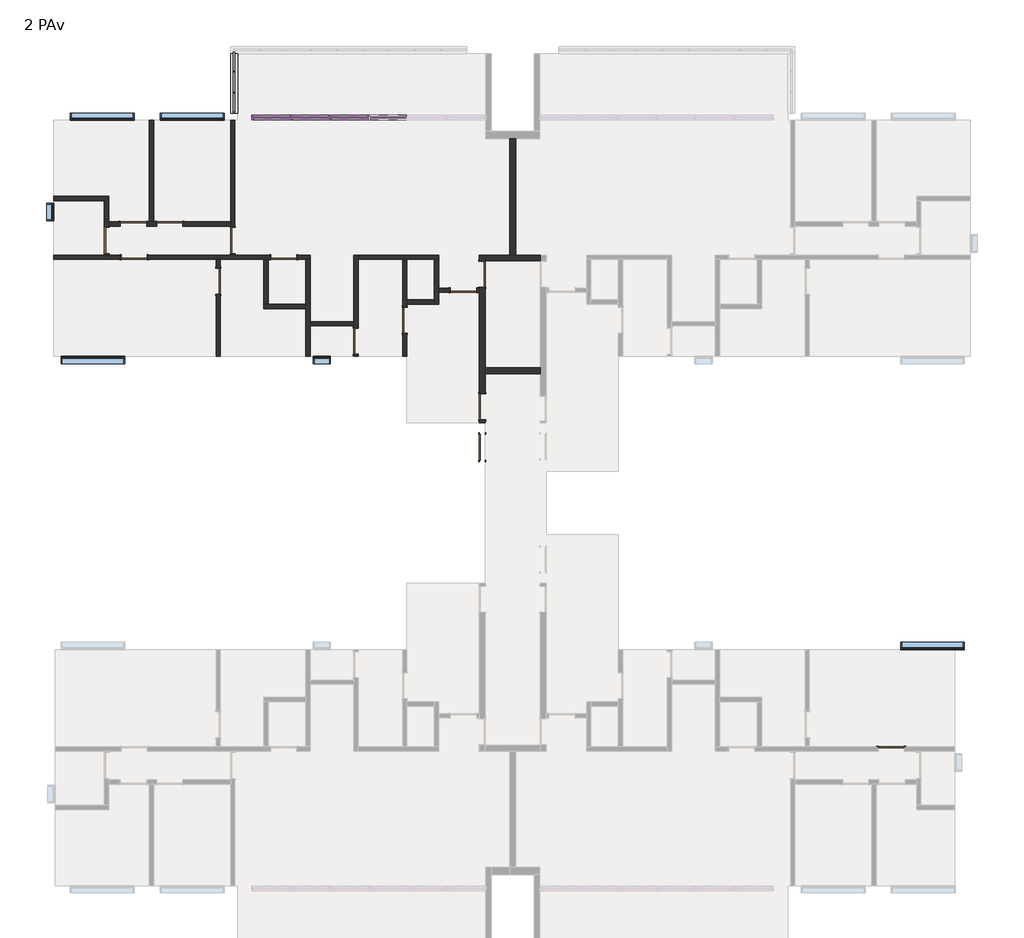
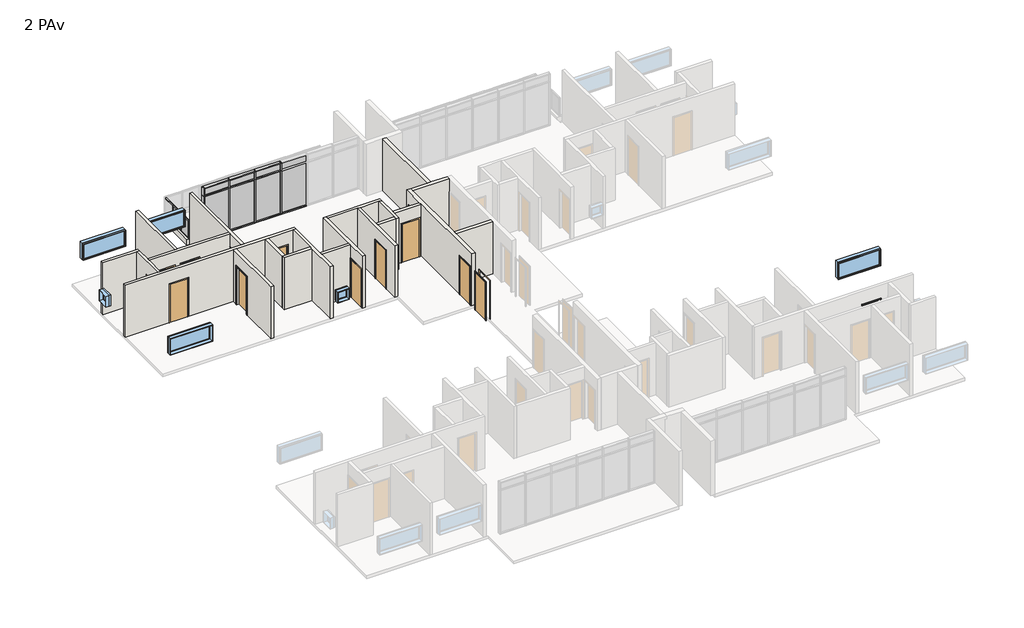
# One storey, part 4 of 6: 26 members, 22 walls, 14 doors, 10 plates, 6 windows.
"""IFC4 building model written with IfcOpenShell, lengths in millimetres."""

from ifc_helpers import new_model, si_unit, frame, origin, place, context, project, spatial, polyline, outline, extrude, faceted_brep, transform, mapped, element, save
from components import door_90_x_210_ee935524, door_90_x_210_565370b3, door_90_x_210_2c83007d, door_90_x_210_fbafd55c, montante_retangular_50_mm_quadrado_84e40a56, montante_retangular_50_mm_quadrado_3d152aff, montante_retangular_50_mm_quadrado_a01005a4, montante_retangular_50_mm_quadrado_ddd80bd7, montante_retangular_50_x_150_mm_6217edde, montante_retangular_50_x_150_mm_a22249d7, montante_retangular_50_x_150_mm_6225e4e3, montante_retangular_50_x_150_mm_0a8c3443, montante_retangular_50_x_150_mm_567eccab, montante_retangular_50_x_150_mm_1ca2bba2, montante_retangular_50_x_150_mm_6abf4531, montante_retangular_50_x_150_mm_662c37b1, painel_do_sistema_0196877a, painel_do_sistema_2aa81470, painel_do_sistema_1ecb5f42, painel_do_sistema_49db1829, painel_do_sistema_5ea5287b, painel_do_sistema_7730abee, window_0610_x_0610_mm_b5667cc9, window_220_x_90_84e01c73

model = new_model("IFC4")

# Units and contexts
model_context = context("Model", 3, world=origin())
ifc_project = project(units=[si_unit("LENGTHUNIT", "METRE", prefix="MILLI")], contexts=[model_context])

# Site, building, storey
site = spatial("IfcSite", under=ifc_project)
building = spatial("IfcBuilding", under=site)
storey = spatial("IfcBuildingStorey", under=building, Name="2 PAv", Elevation=6000.0)

# Doors
placement = place(None, origin())
door_90_x_210_shape = door_90_x_210_ee935524(model_context)
element("IfcDoor", 1, ObjectType="M_Descarga simples : 90 x 210", at=placement, inside=storey, context=model_context, shape_type="MappedRepresentation", body=[
    mapped(door_90_x_210_shape, transform((12043.7734258, -7711.3385375, 6000.0), x_axis=(1.0, 0.0, 0.0), y_axis=(0.0, 1.0, 0.0), z_axis=(0.0, 0.0, 1.0))),
])
element("IfcDoor", 2, ObjectType="M_Descarga simples : 90 x 210", at=placement, inside=storey, context=model_context, shape_type="MappedRepresentation", body=[
    mapped(door_90_x_210_shape, transform((-14116.2265742, 10408.6614625, 6000.0), x_axis=(1.0, 0.0, 0.0), y_axis=(0.0, 1.0, 0.0), z_axis=(0.0, 0.0, 1.0))),
])
element("IfcDoor", 3, ObjectType="M_Descarga simples : 90 x 210", at=placement, inside=storey, context=model_context, shape_type="MappedRepresentation", body=[
    mapped(door_90_x_210_shape, transform((-14096.2265742, 9258.6614625, 6000.0), x_axis=(-1.0, 0.0, 0.0), y_axis=(0.0, -1.0, 0.0), z_axis=(0.0, 0.0, 1.0))),
])
element("IfcDoor", 4, ObjectType="M_Descarga simples : 90 x 210", at=placement, inside=storey, context=model_context, shape_type="MappedRepresentation", body=[
    mapped(door_90_x_210_shape, transform((-8936.2265742, 9258.6614625, 6000.0), x_axis=(-1.0, 0.0, 0.0), y_axis=(0.0, -1.0, 0.0), z_axis=(0.0, 0.0, 1.0))),
])
door_90_x_210_2_shape = door_90_x_210_565370b3(model_context)
element("IfcDoor", 5, ObjectType="M_Descarga simples : 90 x 210", at=placement, inside=storey, context=model_context, shape_type="MappedRepresentation", body=[
    mapped(door_90_x_210_2_shape, transform((-2726.2265742, 8118.6614625, 6000.0), x_axis=(1.0, 0.0, 0.0), y_axis=(0.0, 1.0, 0.0), z_axis=(0.0, 0.0, 1.0))),
])
element("IfcDoor", 6, ObjectType="M_Descarga simples : 90 x 210", at=placement, inside=storey, context=model_context, shape_type="MappedRepresentation", body=[
    mapped(door_90_x_210_2_shape, transform((-4751.2265742, 7083.6614625, 6000.0), x_axis=(0.0, -1.0, 0.0), y_axis=(1.0, 0.0, 0.0), z_axis=(0.0, 0.0, 1.0))),
])
element("IfcDoor", 7, ObjectType="M_Descarga simples : 90 x 210", at=placement, inside=storey, context=model_context, shape_type="MappedRepresentation", body=[
    mapped(door_90_x_210_2_shape, transform((-6441.2265742, 6358.6614625, 6000.0), x_axis=(0.0, -1.0, 0.0), y_axis=(1.0, 0.0, 0.0), z_axis=(0.0, 0.0, 1.0))),
])
element("IfcDoor", 8, ObjectType="M_Descarga simples : 90 x 210", at=placement, inside=storey, context=model_context, shape_type="MappedRepresentation", body=[
    mapped(door_90_x_210_2_shape, transform((-11191.2265742, 8433.6614625, 6000.0), x_axis=(0.0, 1.0, 0.0), y_axis=(-1.0, 0.0, 0.0), z_axis=(0.0, 0.0, 1.0))),
])
element("IfcDoor", 9, ObjectType="M_Descarga simples : 90 x 210", at=placement, inside=storey, context=model_context, shape_type="MappedRepresentation", body=[
    mapped(door_90_x_210_2_shape, transform((-10691.2265742, 9833.6614625, 6000.0), x_axis=(0.0, -1.0, 0.0), y_axis=(1.0, 0.0, 0.0), z_axis=(0.0, 0.0, 1.0))),
])
element("IfcDoor", 10, ObjectType="M_Descarga simples : 90 x 210", at=placement, inside=storey, context=model_context, shape_type="MappedRepresentation", body=[
    mapped(door_90_x_210_2_shape, transform((-15041.2265742, 9833.6614625, 6000.0), x_axis=(0.0, -1.0, 0.0), y_axis=(1.0, 0.0, 0.0), z_axis=(0.0, 0.0, 1.0))),
])
element("IfcDoor", 11, ObjectType="M_Descarga simples : 90 x 210", at=placement, inside=storey, context=model_context, shape_type="MappedRepresentation", body=[
    mapped(door_90_x_210_2_shape, transform((-12866.2265742, 10408.6614625, 6000.0), x_axis=(-1.0, 0.0, 0.0), y_axis=(0.0, -1.0, 0.0), z_axis=(0.0, 0.0, 1.0))),
])
door_90_x_210_3_shape = door_90_x_210_2c83007d(model_context)
element("IfcDoor", 12, ObjectType="M_Descarga simples : 90 x 210", at=placement, inside=storey, context=model_context, shape_type="MappedRepresentation", body=[
    mapped(door_90_x_210_3_shape, transform((-2076.2265742, 2693.6614625, 6000.0), x_axis=(0.0, 1.0, 0.0), y_axis=(-1.0, 0.0, 0.0), z_axis=(0.0, 0.0, 1.0))),
])
door_90_x_210_4_shape = door_90_x_210_fbafd55c(model_context)
element("IfcDoor", 13, ObjectType="M_Descarga simples : 90 x 210", at=placement, inside=storey, context=model_context, shape_type="MappedRepresentation", body=[
    mapped(door_90_x_210_4_shape, transform((-2076.2265742, 4093.6614625, 6000.0), x_axis=(0.0, -1.0, 0.0), y_axis=(1.0, 0.0, 0.0), z_axis=(0.0, 0.0, 1.0))),
])
element("IfcDoor", 14, ObjectType="M_Descarga simples : 90 x 210", at=placement, inside=storey, context=model_context, shape_type="MappedRepresentation", body=[
    mapped(door_90_x_210_4_shape, transform((-2076.2265742, 8673.2521762, 6000.0), x_axis=(0.0, 1.0, 0.0), y_axis=(-1.0, 0.0, 0.0), z_axis=(0.0, 0.0, 1.0))),
])

# Members
montante_retangular_50_mm_quadrado_shape = montante_retangular_50_mm_quadrado_84e40a56(model_context)
element("IfcMember", 15, ObjectType="Montante retangular : 50 mm Quadrado", at=placement, inside=storey, context=model_context, shape_type="MappedRepresentation", body=[
    mapped(montante_retangular_50_mm_quadrado_shape, transform((-10641.2265742, 15663.6614625, 6150.0), x_axis=(0.0, -1.0, 0.0), y_axis=(-1.0, 0.0, 0.0), z_axis=(0.0, 0.0, -1.0))),
])
element("IfcMember", 16, ObjectType="Montante retangular : 50 mm Quadrado", at=placement, inside=storey, context=model_context, shape_type="MappedRepresentation", body=[
    mapped(montante_retangular_50_mm_quadrado_shape, transform((-10641.2265742, 14948.6614625, 6150.0), x_axis=(0.0, -1.0, 0.0), y_axis=(-1.0, 0.0, 0.0), z_axis=(0.0, 0.0, -1.0))),
])
montante_retangular_50_mm_quadrado_2_shape = montante_retangular_50_mm_quadrado_3d152aff(model_context)
element("IfcMember", 17, ObjectType="Montante retangular : 50 mm Quadrado", at=placement, inside=storey, context=model_context, shape_type="MappedRepresentation", body=[
    mapped(montante_retangular_50_mm_quadrado_2_shape, transform((-10641.2265742, 14233.6614625, 6150.0), x_axis=(0.0, -1.0, 0.0), y_axis=(-1.0, 0.0, 0.0), z_axis=(0.0, 0.0, -1.0))),
])
montante_retangular_50_mm_quadrado_3_shape = montante_retangular_50_mm_quadrado_a01005a4(model_context)
element("IfcMember", 18, ObjectType="Montante retangular : 50 mm Quadrado", at=placement, inside=storey, context=model_context, shape_type="MappedRepresentation", body=[
    mapped(montante_retangular_50_mm_quadrado_3_shape, transform((-10641.2265742, 14283.6614625, 7150.0), x_axis=(0.0, 0.0, 1.0), y_axis=(-1.0, 0.0, 0.0), z_axis=(0.0, -1.0, 0.0))),
])
element("IfcMember", 19, ObjectType="Montante retangular : 50 mm Quadrado", at=placement, inside=storey, context=model_context, shape_type="MappedRepresentation", body=[
    mapped(montante_retangular_50_mm_quadrado_3_shape, transform((-10641.2265742, 15688.6614625, 7150.0), x_axis=(0.0, 0.0, 1.0), y_axis=(-1.0, 0.0, 0.0), z_axis=(0.0, -1.0, 0.0))),
])
montante_retangular_50_mm_quadrado_4_shape = montante_retangular_50_mm_quadrado_ddd80bd7(model_context)
element("IfcMember", 20, ObjectType="Montante retangular : 50 mm Quadrado", at=placement, inside=storey, context=model_context, shape_type="MappedRepresentation", body=[
    mapped(montante_retangular_50_mm_quadrado_4_shape, transform((-10641.2265742, 14973.6614625, 7150.0), x_axis=(0.0, 0.0, 1.0), y_axis=(-1.0, 0.0, 0.0), z_axis=(0.0, -1.0, 0.0))),
])
element("IfcMember", 21, ObjectType="Montante retangular : 50 mm Quadrado", at=placement, inside=storey, context=model_context, shape_type="MappedRepresentation", body=[
    mapped(montante_retangular_50_mm_quadrado_3_shape, transform((-10641.2265742, 14923.6614625, 6150.0), x_axis=(0.0, 0.0, -1.0), y_axis=(-1.0, 0.0, 0.0), z_axis=(0.0, 1.0, 0.0))),
])
element("IfcMember", 22, ObjectType="Montante retangular : 50 mm Quadrado", at=placement, inside=storey, context=model_context, shape_type="MappedRepresentation", body=[
    mapped(montante_retangular_50_mm_quadrado_4_shape, transform((-10641.2265742, 15638.6614625, 6150.0), x_axis=(0.0, 0.0, -1.0), y_axis=(-1.0, 0.0, 0.0), z_axis=(0.0, 1.0, 0.0))),
])
montante_retangular_50_x_150_mm_shape = montante_retangular_50_x_150_mm_6217edde(model_context)
element("IfcMember", 23, ObjectType="Montante retangular : 50 x 150 mm", at=placement, inside=storey, context=model_context, shape_type="MappedRepresentation", body=[
    mapped(montante_retangular_50_x_150_mm_shape, transform((-8707.0599075, 14083.6614625, 8850.0), x_axis=(0.0, 0.0, 1.0), y_axis=(0.0, -1.0, 0.0), z_axis=(1.0, 0.0, 0.0))),
])
montante_retangular_50_x_150_mm_2_shape = montante_retangular_50_x_150_mm_a22249d7(model_context)
element("IfcMember", 24, ObjectType="Montante retangular : 50 x 150 mm", at=placement, inside=storey, context=model_context, shape_type="MappedRepresentation", body=[
    mapped(montante_retangular_50_x_150_mm_2_shape, transform((-7362.8932408, 14083.6614625, 8850.0), x_axis=(0.0, 0.0, 1.0), y_axis=(0.0, -1.0, 0.0), z_axis=(1.0, 0.0, 0.0))),
])
element("IfcMember", 25, ObjectType="Montante retangular : 50 x 150 mm", at=placement, inside=storey, context=model_context, shape_type="MappedRepresentation", body=[
    mapped(montante_retangular_50_x_150_mm_2_shape, transform((-6018.7265742, 14083.6614625, 8850.0), x_axis=(0.0, 0.0, 1.0), y_axis=(0.0, -1.0, 0.0), z_axis=(1.0, 0.0, 0.0))),
])
element("IfcMember", 26, ObjectType="Montante retangular : 50 x 150 mm", at=placement, inside=storey, context=model_context, shape_type="MappedRepresentation", body=[
    mapped(montante_retangular_50_x_150_mm_shape, transform((-9976.2265742, 14083.6614625, 6000.0), x_axis=(0.0, 0.0, -1.0), y_axis=(0.0, -1.0, 0.0), z_axis=(-1.0, 0.0, 0.0))),
])
element("IfcMember", 27, ObjectType="Montante retangular : 50 x 150 mm", at=placement, inside=storey, context=model_context, shape_type="MappedRepresentation", body=[
    mapped(montante_retangular_50_x_150_mm_2_shape, transform((-8657.0599075, 14083.6614625, 6000.0), x_axis=(0.0, 0.0, -1.0), y_axis=(0.0, -1.0, 0.0), z_axis=(-1.0, 0.0, 0.0))),
])
element("IfcMember", 28, ObjectType="Montante retangular : 50 x 150 mm", at=placement, inside=storey, context=model_context, shape_type="MappedRepresentation", body=[
    mapped(montante_retangular_50_x_150_mm_2_shape, transform((-7312.8932408, 14083.6614625, 6000.0), x_axis=(0.0, 0.0, -1.0), y_axis=(0.0, -1.0, 0.0), z_axis=(-1.0, 0.0, 0.0))),
])
element("IfcMember", 29, ObjectType="Montante retangular : 50 x 150 mm", at=placement, inside=storey, context=model_context, shape_type="MappedRepresentation", body=[
    mapped(montante_retangular_50_x_150_mm_2_shape, transform((-5968.7265742, 14083.6614625, 6000.0), x_axis=(0.0, 0.0, -1.0), y_axis=(0.0, -1.0, 0.0), z_axis=(-1.0, 0.0, 0.0))),
])
montante_retangular_50_x_150_mm_3_shape = montante_retangular_50_x_150_mm_6225e4e3(model_context)
element("IfcMember", 30, ObjectType="Montante retangular : 50 x 150 mm", at=placement, inside=storey, context=model_context, shape_type="MappedRepresentation", body=[
    mapped(montante_retangular_50_x_150_mm_3_shape, transform((-8682.0599075, 14083.6614625, 6000.0), x_axis=(1.0, 0.0, 0.0), y_axis=(0.0, -1.0, 0.0), z_axis=(0.0, 0.0, -1.0))),
])
element("IfcMember", 31, ObjectType="Montante retangular : 50 x 150 mm", at=placement, inside=storey, context=model_context, shape_type="MappedRepresentation", body=[
    mapped(montante_retangular_50_x_150_mm_3_shape, transform((-7337.8932408, 14083.6614625, 6000.0), x_axis=(1.0, 0.0, 0.0), y_axis=(0.0, -1.0, 0.0), z_axis=(0.0, 0.0, -1.0))),
])
element("IfcMember", 32, ObjectType="Montante retangular : 50 x 150 mm", at=placement, inside=storey, context=model_context, shape_type="MappedRepresentation", body=[
    mapped(montante_retangular_50_x_150_mm_3_shape, transform((-5993.7265742, 14083.6614625, 6000.0), x_axis=(1.0, 0.0, 0.0), y_axis=(0.0, -1.0, 0.0), z_axis=(0.0, 0.0, -1.0))),
])
montante_retangular_50_x_150_mm_4_shape = montante_retangular_50_x_150_mm_0a8c3443(model_context)
element("IfcMember", 33, ObjectType="Montante retangular : 50 x 150 mm", at=placement, inside=storey, context=model_context, shape_type="MappedRepresentation", body=[
    mapped(montante_retangular_50_x_150_mm_4_shape, transform((-10026.2265742, 14083.6614625, 8850.0), x_axis=(-1.0, 0.0, 0.0), y_axis=(0.0, -1.0, 0.0), z_axis=(0.0, 0.0, 1.0))),
])
montante_retangular_50_x_150_mm_5_shape = montante_retangular_50_x_150_mm_567eccab(model_context)
element("IfcMember", 34, ObjectType="Montante retangular : 50 x 150 mm", at=placement, inside=storey, context=model_context, shape_type="MappedRepresentation", body=[
    mapped(montante_retangular_50_x_150_mm_5_shape, transform((-8682.0599075, 14083.6614625, 8400.0), x_axis=(1.0, 0.0, 0.0), y_axis=(0.0, -1.0, 0.0), z_axis=(0.0, 0.0, -1.0))),
])
element("IfcMember", 35, ObjectType="Montante retangular : 50 x 150 mm", at=placement, inside=storey, context=model_context, shape_type="MappedRepresentation", body=[
    mapped(montante_retangular_50_x_150_mm_5_shape, transform((-7337.8932408, 14083.6614625, 8400.0), x_axis=(1.0, 0.0, 0.0), y_axis=(0.0, -1.0, 0.0), z_axis=(0.0, 0.0, -1.0))),
])
element("IfcMember", 36, ObjectType="Montante retangular : 50 x 150 mm", at=placement, inside=storey, context=model_context, shape_type="MappedRepresentation", body=[
    mapped(montante_retangular_50_x_150_mm_5_shape, transform((-5993.7265742, 14083.6614625, 8400.0), x_axis=(1.0, 0.0, 0.0), y_axis=(0.0, -1.0, 0.0), z_axis=(0.0, 0.0, -1.0))),
])
montante_retangular_50_x_150_mm_6_shape = montante_retangular_50_x_150_mm_1ca2bba2(model_context)
element("IfcMember", 37, ObjectType="Montante retangular : 50 x 150 mm", at=placement, inside=storey, context=model_context, shape_type="MappedRepresentation", body=[
    mapped(montante_retangular_50_x_150_mm_6_shape, transform((-8707.0599075, 14083.6614625, 8400.0), x_axis=(0.0, 0.0, 1.0), y_axis=(0.0, -1.0, 0.0), z_axis=(1.0, 0.0, 0.0))),
])
montante_retangular_50_x_150_mm_7_shape = montante_retangular_50_x_150_mm_6abf4531(model_context)
element("IfcMember", 38, ObjectType="Montante retangular : 50 x 150 mm", at=placement, inside=storey, context=model_context, shape_type="MappedRepresentation", body=[
    mapped(montante_retangular_50_x_150_mm_7_shape, transform((-7362.8932408, 14083.6614625, 8400.0), x_axis=(0.0, 0.0, 1.0), y_axis=(0.0, -1.0, 0.0), z_axis=(1.0, 0.0, 0.0))),
])
element("IfcMember", 39, ObjectType="Montante retangular : 50 x 150 mm", at=placement, inside=storey, context=model_context, shape_type="MappedRepresentation", body=[
    mapped(montante_retangular_50_x_150_mm_7_shape, transform((-6018.7265742, 14083.6614625, 8400.0), x_axis=(0.0, 0.0, 1.0), y_axis=(0.0, -1.0, 0.0), z_axis=(1.0, 0.0, 0.0))),
])
montante_retangular_50_x_150_mm_8_shape = montante_retangular_50_x_150_mm_662c37b1(model_context)
element("IfcMember", 40, ObjectType="Montante retangular : 50 x 150 mm", at=placement, inside=storey, context=model_context, shape_type="MappedRepresentation", body=[
    mapped(montante_retangular_50_x_150_mm_8_shape, transform((-10026.2265742, 14083.6614625, 8400.0), x_axis=(-1.0, 0.0, 0.0), y_axis=(0.0, -1.0, 0.0), z_axis=(0.0, 0.0, 1.0))),
])

# Plates
painel_do_sistema_shape = painel_do_sistema_0196877a(model_context)
element("IfcPlate", 41, ObjectType="Painel do sistema : Envidraçado", at=placement, inside=storey, context=model_context, shape_type="MappedRepresentation", body=[
    mapped(painel_do_sistema_shape, transform((-10641.2265742, 14603.6614625, 6200.0), x_axis=(0.0, -1.0, 0.0), y_axis=(1.0, 0.0, 0.0), z_axis=(0.0, 0.0, 1.0))),
])
painel_do_sistema_2_shape = painel_do_sistema_2aa81470(model_context)
element("IfcPlate", 42, ObjectType="Painel do sistema : Envidraçado", at=placement, inside=storey, context=model_context, shape_type="MappedRepresentation", body=[
    mapped(painel_do_sistema_2_shape, transform((-10641.2265742, 15306.1614625, 6200.0), x_axis=(0.0, -1.0, 0.0), y_axis=(1.0, 0.0, 0.0), z_axis=(0.0, 0.0, 1.0))),
])
painel_do_sistema_3_shape = painel_do_sistema_1ecb5f42(model_context)
element("IfcPlate", 43, ObjectType="Painel do sistema : Envidraçado", at=placement, inside=storey, context=model_context, shape_type="MappedRepresentation", body=[
    mapped(painel_do_sistema_3_shape, transform((-9341.6432408, 14083.6614625, 6050.0), x_axis=(1.0, 0.0, 0.0), y_axis=(0.0, 1.0, 0.0), z_axis=(0.0, 0.0, 1.0))),
])
painel_do_sistema_4_shape = painel_do_sistema_49db1829(model_context)
element("IfcPlate", 44, ObjectType="Painel do sistema : Envidraçado", at=placement, inside=storey, context=model_context, shape_type="MappedRepresentation", body=[
    mapped(painel_do_sistema_4_shape, transform((-8009.9765742, 14083.6614625, 6050.0), x_axis=(1.0, 0.0, 0.0), y_axis=(0.0, 1.0, 0.0), z_axis=(0.0, 0.0, 1.0))),
])
element("IfcPlate", 45, ObjectType="Painel do sistema : Envidraçado", at=placement, inside=storey, context=model_context, shape_type="MappedRepresentation", body=[
    mapped(painel_do_sistema_4_shape, transform((-6665.8099075, 14083.6614625, 6050.0), x_axis=(1.0, 0.0, 0.0), y_axis=(0.0, 1.0, 0.0), z_axis=(0.0, 0.0, 1.0))),
])
element("IfcPlate", 46, ObjectType="Painel do sistema : Envidraçado", at=placement, inside=storey, context=model_context, shape_type="MappedRepresentation", body=[
    mapped(painel_do_sistema_4_shape, transform((-5321.6432408, 14083.6614625, 6050.0), x_axis=(1.0, 0.0, 0.0), y_axis=(0.0, 1.0, 0.0), z_axis=(0.0, 0.0, 1.0))),
])
painel_do_sistema_5_shape = painel_do_sistema_5ea5287b(model_context)
element("IfcPlate", 47, ObjectType="Painel do sistema : Envidraçado", at=placement, inside=storey, context=model_context, shape_type="MappedRepresentation", body=[
    mapped(painel_do_sistema_5_shape, transform((-9341.6432408, 14083.6614625, 8425.0), x_axis=(1.0, 0.0, 0.0), y_axis=(0.0, 1.0, 0.0), z_axis=(0.0, 0.0, 1.0))),
])
painel_do_sistema_6_shape = painel_do_sistema_7730abee(model_context)
element("IfcPlate", 48, ObjectType="Painel do sistema : Envidraçado", at=placement, inside=storey, context=model_context, shape_type="MappedRepresentation", body=[
    mapped(painel_do_sistema_6_shape, transform((-8009.9765742, 14083.6614625, 8425.0), x_axis=(1.0, 0.0, 0.0), y_axis=(0.0, 1.0, 0.0), z_axis=(0.0, 0.0, 1.0))),
])
element("IfcPlate", 49, ObjectType="Painel do sistema : Envidraçado", at=placement, inside=storey, context=model_context, shape_type="MappedRepresentation", body=[
    mapped(painel_do_sistema_6_shape, transform((-6665.8099075, 14083.6614625, 8425.0), x_axis=(1.0, 0.0, 0.0), y_axis=(0.0, 1.0, 0.0), z_axis=(0.0, 0.0, 1.0))),
])
element("IfcPlate", 50, ObjectType="Painel do sistema : Envidraçado", at=placement, inside=storey, context=model_context, shape_type="MappedRepresentation", body=[
    mapped(painel_do_sistema_6_shape, transform((-5321.6432408, 14083.6614625, 8425.0), x_axis=(1.0, 0.0, 0.0), y_axis=(0.0, 1.0, 0.0), z_axis=(0.0, 0.0, 1.0))),
])

# Walls
element("IfcWall", 51, ObjectType="Exeterna 25", at=placement, inside=storey, context=model_context, shape_type="SweptSolid", body=[
    extrude(outline(polyline([(-10766.2265742, 14233.6614625), (-10766.2265742, 16278.6614625), (-10516.2265742, 16278.6614625), (-10516.2265742, 14233.6614625), (-10766.2265742, 14233.6614625)])), frame((0.0, 0.0, 5850.0), z_axis=(0.0, 0.0, 1.0), x_axis=(1.0, 0.0, 0.0)), (0.0, 0.0, 1.0), 300.0),
])
element("IfcWall", 52, ObjectType="Estrutura 20", at=placement, inside=storey, context=model_context, shape_type="SweptSolid", body=[
    extrude(outline(polyline([(-76.2265742, 5233.6614625), (-1976.2265742, 5233.6614625), (-1976.2265742, 5433.6614625), (-76.2265742, 5433.6614625), (-76.2265742, 5233.6614625)])), frame((0.0, 0.0, 6000.0), z_axis=(0.0, 0.0, 1.0), x_axis=(1.0, 0.0, 0.0)), (0.0, 0.0, 1.0), 2850.0),
])
element("IfcWall", 53, ObjectType="Interna 15", at=placement, inside=storey, context=model_context, shape_type="Brep", body=[
    faceted_brep([(-10766.2265742, 9383.6614625, 8100.0), (-10766.2265742, 9383.6614625, 6000.0), (-10766.2265742, 9333.6614625, 6000.0), (-10766.2265742, 9333.6614625, 8850.0), (-10766.2265742, 10333.6614625, 8850.0), (-10766.2265742, 10483.6614625, 8850.0), (-10766.2265742, 13983.6614625, 8850.0), (-10766.2265742, 13983.6614625, 6000.0), (-10766.2265742, 10483.6614625, 6000.0), (-10766.2265742, 10333.6614625, 6000.0), (-10766.2265742, 10283.6614625, 6000.0), (-10766.2265742, 10283.6614625, 8100.0), (-10616.2265742, 9333.6614625, 6000.0), (-10616.2265742, 9383.6614625, 6000.0), (-10616.2265742, 9383.6614625, 8100.0), (-10616.2265742, 10283.6614625, 8100.0), (-10616.2265742, 10283.6614625, 6000.0), (-10616.2265742, 13983.6614625, 6000.0), (-10616.2265742, 13983.6614625, 8850.0), (-10616.2265742, 9333.6614625, 8850.0)], [[[0, 1, 2, 3, 4, 5, 6, 7, 8, 9, 10, 11]], [[12, 13, 14, 15, 16, 17, 18, 19]], [[2, 1, 13, 12]], [[10, 9, 8, 7, 17, 16]], [[6, 5, 4, 3, 19, 18]], [[3, 2, 12, 19]], [[14, 13, 1, 0]], [[15, 14, 0, 11]], [[16, 15, 11, 10]], [[7, 6, 18, 17]]]),
])
element("IfcWall", 54, ObjectType="Interna 15", at=placement, inside=storey, context=model_context, shape_type="Brep", body=[
    faceted_brep([(-13316.2265742, 10483.6614625, 6000.0), (-13416.2265742, 10483.6614625, 6000.0), (-13566.2265742, 10483.6614625, 6000.0), (-13666.2265742, 10483.6614625, 6000.0), (-13666.2265742, 10483.6614625, 8100.0), (-14566.2265742, 10483.6614625, 8100.0), (-14566.2265742, 10483.6614625, 6000.0), (-14966.2265742, 10483.6614625, 6000.0), (-14966.2265742, 10483.6614625, 8850.0), (-13566.2265742, 10483.6614625, 8850.0), (-13416.2265742, 10483.6614625, 8850.0), (-10766.2265742, 10483.6614625, 8850.0), (-10766.2265742, 10483.6614625, 6000.0), (-12416.2265742, 10483.6614625, 6000.0), (-12416.2265742, 10483.6614625, 8100.0), (-13316.2265742, 10483.6614625, 8100.0), (-13666.2265742, 10333.6614625, 8100.0), (-13666.2265742, 10333.6614625, 6000.0), (-13316.2265742, 10333.6614625, 6000.0), (-13316.2265742, 10333.6614625, 8100.0), (-12416.2265742, 10333.6614625, 8100.0), (-12416.2265742, 10333.6614625, 6000.0), (-10766.2265742, 10333.6614625, 6000.0), (-10766.2265742, 10333.6614625, 8850.0), (-14966.2265742, 10333.6614625, 8850.0), (-14966.2265742, 10333.6614625, 6000.0), (-14566.2265742, 10333.6614625, 6000.0), (-14566.2265742, 10333.6614625, 8100.0)], [[[0, 1, 2, 3, 4, 5, 6, 7, 8, 9, 10, 11, 12, 13, 14, 15]], [[16, 17, 18, 19, 20, 21, 22, 23, 24, 25, 26, 27]], [[13, 12, 22, 21]], [[26, 25, 7, 6]], [[18, 17, 3, 2, 1, 0]], [[11, 10, 9, 8, 24, 23]], [[12, 11, 23, 22]], [[8, 7, 25, 24]], [[4, 3, 17, 16]], [[5, 4, 16, 27]], [[6, 5, 27, 26]], [[19, 18, 0, 15]], [[20, 19, 15, 14]], [[21, 20, 14, 13]]]),
])
element("IfcWall", 55, ObjectType="Interna 15", at=placement, inside=storey, context=model_context, shape_type="SweptSolid", body=[
    extrude(outline(polyline([(-13416.2265742, 13983.6614625), (-13416.2265742, 10483.6614625), (-13566.2265742, 10483.6614625), (-13566.2265742, 13983.6614625), (-13416.2265742, 13983.6614625)])), frame((0.0, 0.0, 6000.0), z_axis=(0.0, 0.0, 1.0), x_axis=(1.0, 0.0, 0.0)), (0.0, 0.0, 1.0), 2850.0),
])
element("IfcWall", 56, ObjectType="Interna 15", at=placement, inside=storey, context=model_context, shape_type="Brep", body=[
    faceted_brep([(-16866.2265742, 11213.6614625, 6000.0), (-15116.2265742, 11213.6614625, 6000.0), (-14966.2265742, 11213.6614625, 6000.0), (-14966.2265742, 11213.6614625, 8850.0), (-15116.2265742, 11213.6614625, 8850.0), (-16866.2265742, 11213.6614625, 8850.0), (-16866.2265742, 11363.6614625, 6000.0), (-16866.2265742, 11363.6614625, 8850.0), (-14966.2265742, 11363.6614625, 8850.0), (-14966.2265742, 11363.6614625, 6000.0)], [[[0, 1, 2, 3, 4, 5]], [[6, 7, 8, 9]], [[2, 1, 0, 6, 9]], [[5, 4, 3, 8, 7]], [[3, 2, 9, 8]], [[0, 5, 7, 6]]]),
])
element("IfcWall", 57, ObjectType="Interna 15", at=placement, inside=storey, context=model_context, shape_type="Brep", body=[
    faceted_brep([(-15116.2265742, 9383.6614625, 8100.0), (-15116.2265742, 9383.6614625, 6000.0), (-15116.2265742, 9333.6614625, 6000.0), (-15116.2265742, 9333.6614625, 8850.0), (-15116.2265742, 11213.6614625, 8850.0), (-15116.2265742, 11213.6614625, 6000.0), (-15116.2265742, 10283.6614625, 6000.0), (-15116.2265742, 10283.6614625, 8100.0), (-14966.2265742, 9333.6614625, 6000.0), (-14966.2265742, 9383.6614625, 6000.0), (-14966.2265742, 9383.6614625, 8100.0), (-14966.2265742, 10283.6614625, 8100.0), (-14966.2265742, 10283.6614625, 6000.0), (-14966.2265742, 10333.6614625, 6000.0), (-14966.2265742, 10483.6614625, 6000.0), (-14966.2265742, 11213.6614625, 6000.0), (-14966.2265742, 11213.6614625, 8850.0), (-14966.2265742, 10483.6614625, 8850.0), (-14966.2265742, 10333.6614625, 8850.0), (-14966.2265742, 9333.6614625, 8850.0)], [[[0, 1, 2, 3, 4, 5, 6, 7]], [[8, 9, 10, 11, 12, 13, 14, 15, 16, 17, 18, 19]], [[6, 5, 15, 14, 13, 12]], [[2, 1, 9, 8]], [[4, 3, 19, 18, 17, 16]], [[3, 2, 8, 19]], [[5, 4, 16, 15]], [[10, 9, 1, 0]], [[11, 10, 0, 7]], [[12, 11, 7, 6]]]),
])
element("IfcWall", 58, ObjectType="Interna 15", at=placement, inside=storey, context=model_context, shape_type="Brep", body=[
    faceted_brep([(-13646.2265742, 9183.6614625, 6000.0), (-11266.2265742, 9183.6614625, 6000.0), (-11116.2265742, 9183.6614625, 6000.0), (-9616.2265742, 9183.6614625, 6000.0), (-9466.2265742, 9183.6614625, 6000.0), (-9386.2265742, 9183.6614625, 6000.0), (-9386.2265742, 9183.6614625, 8100.0), (-8486.2265742, 9183.6614625, 8100.0), (-8486.2265742, 9183.6614625, 6000.0), (-8166.2265742, 9183.6614625, 6000.0), (-8016.2265742, 9183.6614625, 6000.0), (-8016.2265742, 9183.6614625, 8850.0), (-8166.2265742, 9183.6614625, 8850.0), (-9466.2265742, 9183.6614625, 8850.0), (-9616.2265742, 9183.6614625, 8850.0), (-11116.2265742, 9183.6614625, 8850.0), (-11266.2265742, 9183.6614625, 8850.0), (-16866.2265742, 9183.6614625, 8850.0), (-16866.2265742, 9183.6614625, 6000.0), (-14546.2265742, 9183.6614625, 6000.0), (-14546.2265742, 9183.6614625, 8100.0), (-13646.2265742, 9183.6614625, 8100.0), (-9386.2265742, 9333.6614625, 8100.0), (-9386.2265742, 9333.6614625, 6000.0), (-10616.2265742, 9333.6614625, 6000.0), (-10766.2265742, 9333.6614625, 6000.0), (-13646.2265742, 9333.6614625, 6000.0), (-13646.2265742, 9333.6614625, 8100.0), (-14546.2265742, 9333.6614625, 8100.0), (-14546.2265742, 9333.6614625, 6000.0), (-14966.2265742, 9333.6614625, 6000.0), (-15116.2265742, 9333.6614625, 6000.0), (-16866.2265742, 9333.6614625, 6000.0), (-16866.2265742, 9333.6614625, 8850.0), (-15116.2265742, 9333.6614625, 8850.0), (-14966.2265742, 9333.6614625, 8850.0), (-10766.2265742, 9333.6614625, 8850.0), (-10616.2265742, 9333.6614625, 8850.0), (-8016.2265742, 9333.6614625, 8850.0), (-8016.2265742, 9333.6614625, 6000.0), (-8486.2265742, 9333.6614625, 6000.0), (-8486.2265742, 9333.6614625, 8100.0)], [[[0, 1, 2, 3, 4, 5, 6, 7, 8, 9, 10, 11, 12, 13, 14, 15, 16, 17, 18, 19, 20, 21]], [[22, 23, 24, 25, 26, 27, 28, 29, 30, 31, 32, 33, 34, 35, 36, 37, 38, 39, 40, 41]], [[40, 39, 10, 9, 8]], [[26, 25, 24, 23, 5, 4, 3, 2, 1, 0]], [[32, 31, 30, 29, 19, 18]], [[17, 16, 15, 14, 13, 12, 11, 38, 37, 36, 35, 34, 33]], [[11, 10, 39, 38]], [[6, 5, 23, 22]], [[7, 6, 22, 41]], [[8, 7, 41, 40]], [[20, 19, 29, 28]], [[21, 20, 28, 27]], [[0, 21, 27, 26]], [[18, 17, 33, 32]]]),
])
element("IfcWall", 59, ObjectType="Interna 15", at=placement, inside=storey, context=model_context, shape_type="Brep", body=[
    faceted_brep([(-8166.2265742, 9183.6614625, 6000.0), (-8166.2265742, 7633.6614625, 6000.0), (-8166.2265742, 7483.6614625, 6000.0), (-8166.2265742, 5833.6614625, 6000.0), (-8166.2265742, 5833.6614625, 8850.0), (-8166.2265742, 7483.6614625, 8850.0), (-8166.2265742, 7633.6614625, 8850.0), (-8166.2265742, 9183.6614625, 8850.0), (-8016.2265742, 9183.6614625, 6000.0), (-8016.2265742, 9183.6614625, 8850.0), (-8016.2265742, 7033.6614625, 8850.0), (-8016.2265742, 6883.6614625, 8850.0), (-8016.2265742, 5833.6614625, 8850.0), (-8016.2265742, 5833.6614625, 6000.0), (-8016.2265742, 6883.6614625, 6000.0), (-8016.2265742, 7033.6614625, 6000.0)], [[[0, 1, 2, 3, 4, 5, 6, 7]], [[8, 9, 10, 11, 12, 13, 14, 15]], [[3, 2, 1, 0, 8, 15, 14, 13]], [[7, 6, 5, 4, 12, 11, 10, 9]], [[0, 7, 9, 8]], [[4, 3, 13, 12]]]),
])
element("IfcWall", 60, ObjectType="Interna 15", at=placement, inside=storey, context=model_context, shape_type="Brep", body=[
    faceted_brep([(-8166.2265742, 7633.6614625, 6000.0), (-9466.2265742, 7633.6614625, 6000.0), (-9616.2265742, 7633.6614625, 6000.0), (-9616.2265742, 7633.6614625, 8850.0), (-9466.2265742, 7633.6614625, 8850.0), (-8166.2265742, 7633.6614625, 8850.0), (-8166.2265742, 7483.6614625, 6000.0), (-8166.2265742, 7483.6614625, 8850.0), (-9616.2265742, 7483.6614625, 8850.0), (-9616.2265742, 7483.6614625, 6000.0)], [[[0, 1, 2, 3, 4, 5]], [[6, 7, 8, 9]], [[2, 1, 0, 6, 9]], [[5, 4, 3, 8, 7]], [[0, 5, 7, 6]], [[3, 2, 9, 8]]]),
])
element("IfcWall", 61, ObjectType="Interna 15", at=placement, inside=storey, context=model_context, shape_type="SweptSolid", body=[
    extrude(outline(polyline([(-9466.2265742, 9183.6614625), (-9466.2265742, 7633.6614625), (-9616.2265742, 7633.6614625), (-9616.2265742, 9183.6614625), (-9466.2265742, 9183.6614625)])), frame((0.0, 0.0, 6000.0), z_axis=(0.0, 0.0, 1.0), x_axis=(1.0, 0.0, 0.0)), (0.0, 0.0, 1.0), 2850.0),
])
element("IfcWall", 62, ObjectType="Interna 15", at=placement, inside=storey, context=model_context, shape_type="SweptSolid", body=[
    extrude(outline(polyline([(9183.6614625, 6000.0), (8883.6614625, 6000.0), (8883.6614625, 8100.0), (7983.6614625, 8100.0), (7983.6614625, 6000.0), (5833.6614625, 6000.0), (5833.6614625, 8850.0), (9183.6614625, 8850.0), (9183.6614625, 6000.0)])), frame((-11266.2265742, 0.0, 0.0), z_axis=(1.0, 0.0, 0.0), x_axis=(0.0, 1.0, 0.0)), (0.0, 0.0, 1.0), 150.0),
])
element("IfcWall", 63, ObjectType="Interna 15", at=placement, inside=storey, context=model_context, shape_type="SweptSolid", body=[
    extrude(outline(polyline([(-6516.2265742, 6883.6614625), (-8016.2265742, 6883.6614625), (-8016.2265742, 7033.6614625), (-6516.2265742, 7033.6614625), (-6516.2265742, 6883.6614625)])), frame((0.0, 0.0, 6000.0), z_axis=(0.0, 0.0, 1.0), x_axis=(1.0, 0.0, 0.0)), (0.0, 0.0, 1.0), 2850.0),
])
element("IfcWall", 64, ObjectType="Interna 15", at=placement, inside=storey, context=model_context, shape_type="Brep", body=[
    faceted_brep([(-6366.2265742, 5833.6614625, 6000.0), (-6366.2265742, 5908.6614625, 6000.0), (-6366.2265742, 5908.6614625, 8100.0), (-6366.2265742, 6808.6614625, 8100.0), (-6366.2265742, 6808.6614625, 6000.0), (-6366.2265742, 9183.6614625, 6000.0), (-6366.2265742, 9333.6614625, 6000.0), (-6366.2265742, 9333.6614625, 8850.0), (-6366.2265742, 9183.6614625, 8850.0), (-6366.2265742, 5833.6614625, 8850.0), (-6516.2265742, 5908.6614625, 8100.0), (-6516.2265742, 5908.6614625, 6000.0), (-6516.2265742, 5833.6614625, 6000.0), (-6516.2265742, 5833.6614625, 8850.0), (-6516.2265742, 6883.6614625, 8850.0), (-6516.2265742, 7033.6614625, 8850.0), (-6516.2265742, 9333.6614625, 8850.0), (-6516.2265742, 9333.6614625, 6000.0), (-6516.2265742, 7033.6614625, 6000.0), (-6516.2265742, 6883.6614625, 6000.0), (-6516.2265742, 6808.6614625, 6000.0), (-6516.2265742, 6808.6614625, 8100.0)], [[[0, 1, 2, 3, 4, 5, 6, 7, 8, 9]], [[10, 11, 12, 13, 14, 15, 16, 17, 18, 19, 20, 21]], [[12, 11, 1, 0]], [[20, 19, 18, 17, 6, 5, 4]], [[9, 8, 7, 16, 15, 14, 13]], [[7, 6, 17, 16]], [[2, 1, 11, 10]], [[3, 2, 10, 21]], [[4, 3, 21, 20]], [[0, 9, 13, 12]]]),
])
element("IfcWall", 65, ObjectType="Interna 15", at=placement, inside=storey, context=model_context, shape_type="Brep", body=[
    faceted_brep([(-6366.2265742, 9183.6614625, 6000.0), (-4826.2265742, 9183.6614625, 6000.0), (-4676.2265742, 9183.6614625, 6000.0), (-3726.2265742, 9183.6614625, 6000.0), (-3576.2265742, 9183.6614625, 6000.0), (-3576.2265742, 9183.6614625, 8850.0), (-3726.2265742, 9183.6614625, 8850.0), (-4676.2265742, 9183.6614625, 8850.0), (-4826.2265742, 9183.6614625, 8850.0), (-6366.2265742, 9183.6614625, 8850.0), (-6366.2265742, 9333.6614625, 6000.0), (-6366.2265742, 9333.6614625, 8850.0), (-3576.2265742, 9333.6614625, 8850.0), (-3576.2265742, 9333.6614625, 6000.0)], [[[0, 1, 2, 3, 4, 5, 6, 7, 8, 9]], [[10, 11, 12, 13]], [[4, 3, 2, 1, 0, 10, 13]], [[9, 8, 7, 6, 5, 12, 11]], [[0, 9, 11, 10]], [[5, 4, 13, 12]]]),
])
element("IfcWall", 66, ObjectType="Interna 15", at=placement, inside=storey, context=model_context, shape_type="Brep", body=[
    faceted_brep([(-4826.2265742, 6633.6614625, 8100.0), (-4826.2265742, 6633.6614625, 6000.0), (-4826.2265742, 5833.6614625, 6000.0), (-4826.2265742, 5833.6614625, 8850.0), (-4826.2265742, 9183.6614625, 8850.0), (-4826.2265742, 9183.6614625, 6000.0), (-4826.2265742, 7533.6614625, 6000.0), (-4826.2265742, 7533.6614625, 8100.0), (-4676.2265742, 5833.6614625, 6000.0), (-4676.2265742, 6633.6614625, 6000.0), (-4676.2265742, 6633.6614625, 8100.0), (-4676.2265742, 7533.6614625, 8100.0), (-4676.2265742, 7533.6614625, 6000.0), (-4676.2265742, 7633.6614625, 6000.0), (-4676.2265742, 7783.6614625, 6000.0), (-4676.2265742, 9183.6614625, 6000.0), (-4676.2265742, 9183.6614625, 8850.0), (-4676.2265742, 7783.6614625, 8850.0), (-4676.2265742, 7633.6614625, 8850.0), (-4676.2265742, 5833.6614625, 8850.0)], [[[0, 1, 2, 3, 4, 5, 6, 7]], [[8, 9, 10, 11, 12, 13, 14, 15, 16, 17, 18, 19]], [[6, 5, 15, 14, 13, 12]], [[2, 1, 9, 8]], [[4, 3, 19, 18, 17, 16]], [[5, 4, 16, 15]], [[10, 9, 1, 0]], [[11, 10, 0, 7]], [[12, 11, 7, 6]], [[3, 2, 8, 19]]]),
])
element("IfcWall", 67, ObjectType="Interna 15", at=placement, inside=storey, context=model_context, shape_type="Brep", body=[
    faceted_brep([(-3726.2265742, 9183.6614625, 6000.0), (-3726.2265742, 7783.6614625, 6000.0), (-3726.2265742, 7633.6614625, 6000.0), (-3726.2265742, 7633.6614625, 8850.0), (-3726.2265742, 7783.6614625, 8850.0), (-3726.2265742, 9183.6614625, 8850.0), (-3576.2265742, 9183.6614625, 6000.0), (-3576.2265742, 9183.6614625, 8850.0), (-3576.2265742, 8193.6614625, 8850.0), (-3576.2265742, 8043.6614625, 8850.0), (-3576.2265742, 7633.6614625, 8850.0), (-3576.2265742, 7633.6614625, 6000.0), (-3576.2265742, 8043.6614625, 6000.0), (-3576.2265742, 8193.6614625, 6000.0)], [[[0, 1, 2, 3, 4, 5]], [[6, 7, 8, 9, 10, 11, 12, 13]], [[2, 1, 0, 6, 13, 12, 11]], [[5, 4, 3, 10, 9, 8, 7]], [[3, 2, 11, 10]], [[0, 5, 7, 6]]]),
])
element("IfcWall", 68, ObjectType="Interna 15", at=placement, inside=storey, context=model_context, shape_type="SweptSolid", body=[
    extrude(outline(polyline([(-4676.2265742, 7783.6614625), (-3726.2265742, 7783.6614625), (-3726.2265742, 7633.6614625), (-4676.2265742, 7633.6614625), (-4676.2265742, 7783.6614625)])), frame((0.0, 0.0, 6000.0), z_axis=(0.0, 0.0, 1.0), x_axis=(1.0, 0.0, 0.0)), (0.0, 0.0, 1.0), 2850.0),
])
element("IfcWall", 69, ObjectType="Interna 15", at=placement, inside=storey, context=model_context, shape_type="SweptSolid", body=[
    extrude(outline(polyline([(8100.0, -2276.2265742), (6000.0, -2276.2265742), (6000.0, -2176.2265742), (8850.0, -2176.2265742), (8850.0, -3576.2265742), (6000.0, -3576.2265742), (6000.0, -3176.2265742), (8100.0, -3176.2265742), (8100.0, -2276.2265742)])), frame((0.0, 8043.6614625, 0.0), z_axis=(0.0, 1.0, 0.0), x_axis=(0.0, 0.0, 1.0)), (0.0, 0.0, 1.0), 150.0),
])
element("IfcWall", 70, ObjectType="Interna 20", at=placement, inside=storey, context=model_context, shape_type="SweptSolid", body=[
    extrude(outline(polyline([(-926.2265742, 13353.6614625), (-926.2265742, 9333.6614625), (-1126.2265742, 9333.6614625), (-1126.2265742, 13353.6614625), (-926.2265742, 13353.6614625)])), frame((0.0, 0.0, 6000.0), z_axis=(0.0, 0.0, 1.0), x_axis=(1.0, 0.0, 0.0)), (0.0, 0.0, 1.0), 2850.0),
])
element("IfcWall", 71, ObjectType="Interna 20", at=placement, inside=storey, context=model_context, shape_type="Brep", body=[
    faceted_brep([(-76.2265742, 9333.6614625, 6000.0), (-926.2265742, 9333.6614625, 6000.0), (-1126.2265742, 9333.6614625, 6000.0), (-1976.2265742, 9333.6614625, 6000.0), (-1976.2265742, 9333.6614625, 8850.0), (-1126.2265742, 9333.6614625, 8850.0), (-926.2265742, 9333.6614625, 8850.0), (-76.2265742, 9333.6614625, 8850.0), (-76.2265742, 9133.6614625, 6000.0), (-76.2265742, 9133.6614625, 8850.0), (-1976.2265742, 9133.6614625, 8850.0), (-1976.2265742, 9133.6614625, 6000.0)], [[[0, 1, 2, 3, 4, 5, 6, 7]], [[8, 9, 10, 11]], [[3, 2, 1, 0, 8, 11]], [[7, 6, 5, 4, 10, 9]], [[0, 7, 9, 8]], [[4, 3, 11, 10]]]),
])
element("IfcWall", 72, ObjectType="Interna 20", at=placement, inside=storey, context=model_context, shape_type="Brep", body=[
    faceted_brep([(-2176.2265742, 9333.6614625, 6000.0), (-2176.2265742, 9123.2521762, 6000.0), (-2176.2265742, 9123.2521762, 8100.0), (-2176.2265742, 8223.2521762, 8100.0), (-2176.2265742, 8223.2521762, 6000.0), (-2176.2265742, 8193.6614625, 6000.0), (-2176.2265742, 8043.6614625, 6000.0), (-2176.2265742, 4543.6614625, 6000.0), (-2176.2265742, 4543.6614625, 8100.0), (-2176.2265742, 3643.6614625, 8100.0), (-2176.2265742, 3643.6614625, 6000.0), (-2176.2265742, 3543.6614625, 6000.0), (-2176.2265742, 3543.6614625, 8850.0), (-2176.2265742, 8043.6614625, 8850.0), (-2176.2265742, 8193.6614625, 8850.0), (-2176.2265742, 9333.6614625, 8850.0), (-1976.2265742, 9123.2521762, 8100.0), (-1976.2265742, 9123.2521762, 6000.0), (-1976.2265742, 9133.6614625, 6000.0), (-1976.2265742, 9333.6614625, 6000.0), (-1976.2265742, 9333.6614625, 8850.0), (-1976.2265742, 9133.6614625, 8850.0), (-1976.2265742, 5433.6614625, 8850.0), (-1976.2265742, 5233.6614625, 8850.0), (-1976.2265742, 3543.6614625, 8850.0), (-1976.2265742, 3543.6614625, 6000.0), (-1976.2265742, 3643.6614625, 6000.0), (-1976.2265742, 3643.6614625, 8100.0), (-1976.2265742, 4543.6614625, 8100.0), (-1976.2265742, 4543.6614625, 6000.0), (-1976.2265742, 5233.6614625, 6000.0), (-1976.2265742, 5433.6614625, 6000.0), (-1976.2265742, 8223.2521762, 6000.0), (-1976.2265742, 8223.2521762, 8100.0)], [[[0, 1, 2, 3, 4, 5, 6, 7, 8, 9, 10, 11, 12, 13, 14, 15]], [[16, 17, 18, 19, 20, 21, 22, 23, 24, 25, 26, 27, 28, 29, 30, 31, 32, 33]], [[11, 10, 26, 25]], [[19, 18, 17, 1, 0]], [[32, 31, 30, 29, 7, 6, 5, 4]], [[15, 14, 13, 12, 24, 23, 22, 21, 20]], [[0, 15, 20, 19]], [[27, 26, 10, 9]], [[28, 27, 9, 8]], [[29, 28, 8, 7]], [[2, 1, 17, 16]], [[3, 2, 16, 33]], [[4, 3, 33, 32]], [[12, 11, 25, 24]]]),
])

# Windows
window_0610_x_0610_mm_shape = window_0610_x_0610_mm_b5667cc9(model_context)
element("IfcWindow", 73, ObjectType="M_Fixado : 0610 x 0610 mm", at=placement, inside=storey, context=model_context, shape_type="MappedRepresentation", body=[
    mapped(window_0610_x_0610_mm_shape, transform((-7616.2265742, 5695.6614625, 6000.0), x_axis=(-1.0, 0.0, 0.0), y_axis=(0.0, -1.0, 0.0), z_axis=(0.0, 0.0, 1.0))),
])
element("IfcWindow", 74, ObjectType="M_Fixado : 0610 x 0610 mm", at=placement, inside=storey, context=model_context, shape_type="MappedRepresentation", body=[
    mapped(window_0610_x_0610_mm_shape, transform((-17004.2265742, 10813.6614625, 6000.0), x_axis=(0.0, 1.0, 0.0), y_axis=(-1.0, 0.0, 0.0), z_axis=(0.0, 0.0, 1.0))),
])
window_220_x_90_shape = window_220_x_90_84e01c73(model_context)
element("IfcWindow", 75, ObjectType="M_Fixado : 220 x 90", at=placement, inside=storey, context=model_context, shape_type="MappedRepresentation", body=[
    mapped(window_220_x_90_shape, transform((13463.7734258, -4148.3385375, 6185.0), x_axis=(1.0, 0.0, 0.0), y_axis=(0.0, 1.0, 0.0), z_axis=(0.0, 0.0, 1.0))),
])
element("IfcWindow", 76, ObjectType="M_Fixado : 220 x 90", at=placement, inside=storey, context=model_context, shape_type="MappedRepresentation", body=[
    mapped(window_220_x_90_shape, transform((-12091.2265742, 14121.6614625, 6185.0), x_axis=(1.0, 0.0, 0.0), y_axis=(0.0, 1.0, 0.0), z_axis=(0.0, 0.0, 1.0))),
])
element("IfcWindow", 77, ObjectType="M_Fixado : 220 x 90", at=placement, inside=storey, context=model_context, shape_type="MappedRepresentation", body=[
    mapped(window_220_x_90_shape, transform((-15191.2265742, 14121.6614625, 6185.0), x_axis=(1.0, 0.0, 0.0), y_axis=(0.0, 1.0, 0.0), z_axis=(0.0, 0.0, 1.0))),
])
element("IfcWindow", 78, ObjectType="M_Fixado : 220 x 90", at=placement, inside=storey, context=model_context, shape_type="MappedRepresentation", body=[
    mapped(window_220_x_90_shape, transform((-15516.2265742, 5695.6614625, 6185.0), x_axis=(-1.0, 0.0, 0.0), y_axis=(0.0, -1.0, 0.0), z_axis=(0.0, 0.0, 1.0))),
])

save(model, "model.ifc")
